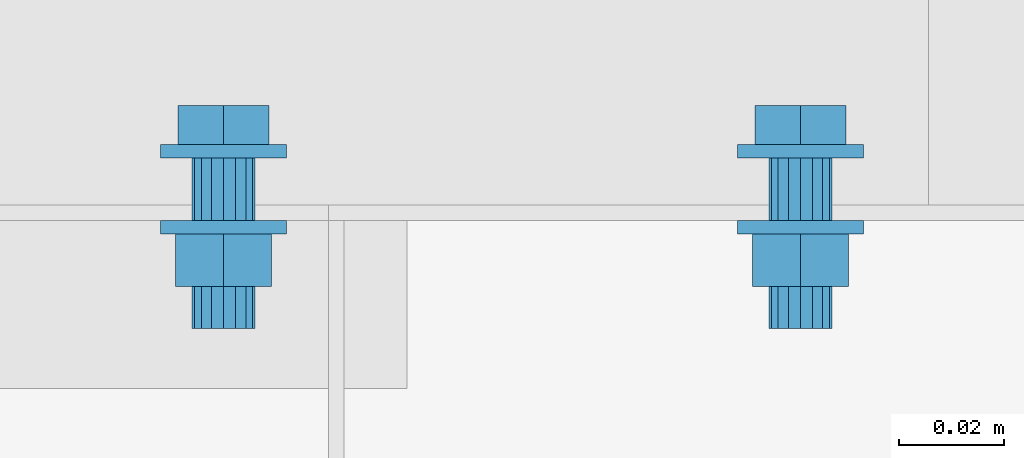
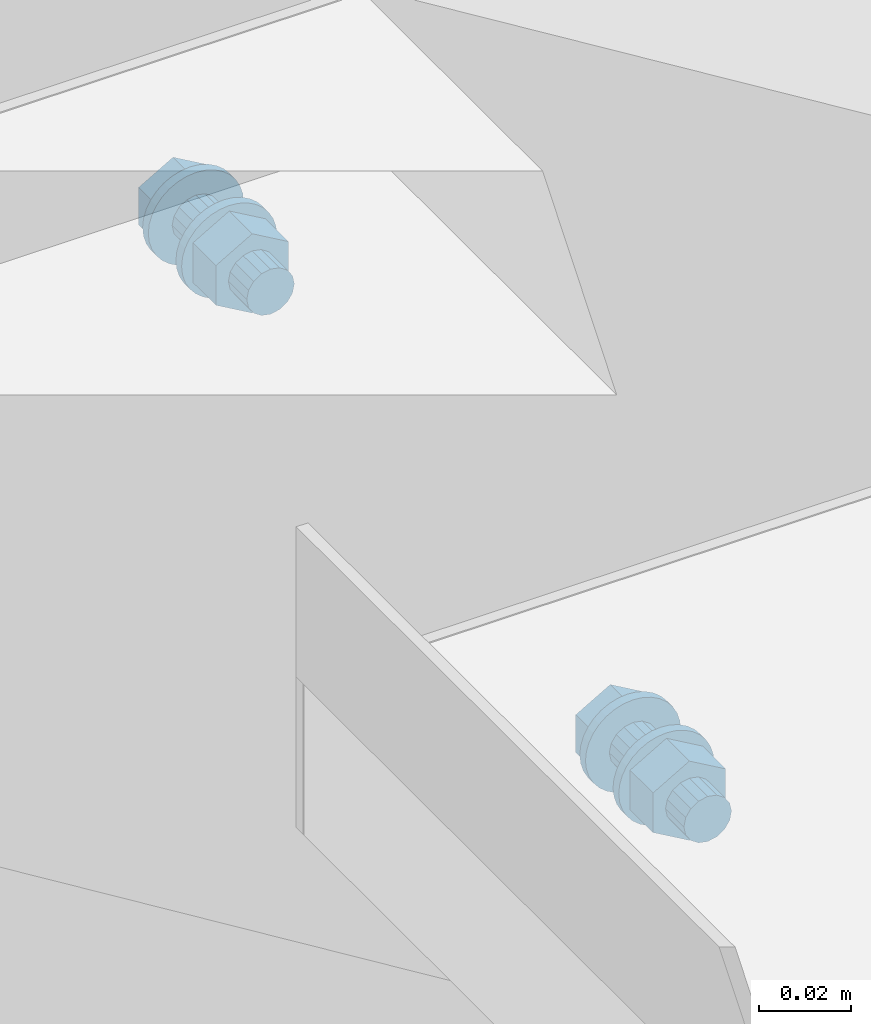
# One storey, part 256 of 410: 2 mechanical fasteners.
"""IFC2X3 building model written with IfcOpenShell, lengths in millimetres."""

from ifc_helpers import new_model, entity, si_unit, converted_unit, origin_with_axes, place, context, project, spatial, faceted_brep, element, save


model = new_model("IFC2X3")

# Units and contexts
model_context = context("Model", 3, precision=1e-09, world=origin_with_axes())
ifc_project = project(units=[si_unit("LENGTHUNIT", "METRE", prefix="MILLI"), si_unit("AREAUNIT", "SQUARE_METRE"), si_unit("VOLUMEUNIT", "CUBIC_METRE"), converted_unit("PLANEANGLEUNIT", "DEGREE", entity("IfcPlaneAngleMeasure", 0.01745329), si_unit("PLANEANGLEUNIT", "RADIAN"), dimensions=[0, 0, 0, 0, 0, 0, 0])], contexts=[model_context])

# Site, building, storey
site_placement = place(None, origin_with_axes())
site = spatial("IfcSite", under=ifc_project, at=site_placement, Name="mKR Teilneubau & Sanierung BA1 - Ostfildern", CompositionType="ELEMENT")
building_placement = place(site_placement, origin_with_axes())
building = spatial("IfcBuilding", under=site, at=building_placement, Name="Struktur 1", CompositionType="ELEMENT")
storey_placement = place(building_placement, origin_with_axes())
storey = spatial("IfcBuildingStorey", under=building, at=storey_placement, Name="Default Storey", CompositionType="ELEMENT", Elevation=0.0)

# Mechanical fasteners
mechanical_fastener_1_placement = place(None, origin_with_axes())
element("IfcMechanicalFastener", 1, at=mechanical_fastener_1_placement, inside=storey, ObjectType="Bolt", NominalDiameter=12.0, NominalLength=35.0, context=model_context, shape_type="Brep", body=[
    faceted_brep([(-1038.0, 18451.499999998, -591.4), (-1038.0, 18448.999999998, -591.4), (-1038.230576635, 18448.999999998, -593.741083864), (-1038.230576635, 18451.499999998, -593.741083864), (-1038.91344561, 18448.999999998, -595.992201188), (-1038.91344561, 18451.499999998, -595.992201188), (-1040.022364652, 18448.999999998, -598.066842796), (-1040.022364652, 18451.499999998, -598.066842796), (-1041.514718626, 18448.999999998, -599.885281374), (-1041.514718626, 18451.499999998, -599.885281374), (-1043.333157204, 18448.999999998, -601.377635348), (-1043.333157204, 18451.499999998, -601.377635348), (-1045.407798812, 18448.999999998, -602.48655439), (-1045.407798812, 18451.499999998, -602.48655439), (-1047.658916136, 18448.999999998, -603.169423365), (-1047.658916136, 18451.499999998, -603.169423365), (-1050.0, 18448.999999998, -603.4), (-1050.0, 18451.499999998, -603.4), (-1052.341083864, 18448.999999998, -603.169423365), (-1052.341083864, 18451.499999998, -603.169423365), (-1054.592201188, 18448.999999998, -602.48655439), (-1054.592201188, 18451.499999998, -602.48655439), (-1056.666842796, 18448.999999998, -601.377635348), (-1056.666842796, 18451.499999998, -601.377635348), (-1058.485281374, 18448.999999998, -599.885281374), (-1058.485281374, 18451.499999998, -599.885281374), (-1059.977635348, 18448.999999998, -598.066842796), (-1059.977635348, 18451.499999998, -598.066842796), (-1061.08655439, 18448.999999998, -595.992201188), (-1061.08655439, 18451.499999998, -595.992201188), (-1061.769423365, 18448.999999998, -593.741083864), (-1061.769423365, 18451.499999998, -593.741083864), (-1062.0, 18448.999999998, -591.4), (-1062.0, 18451.499999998, -591.4), (-1061.769423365, 18448.999999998, -589.058916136), (-1061.769423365, 18451.499999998, -589.058916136), (-1061.08655439, 18448.999999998, -586.807798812), (-1061.08655439, 18451.499999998, -586.807798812), (-1059.977635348, 18448.999999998, -584.733157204), (-1059.977635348, 18451.499999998, -584.733157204), (-1058.485281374, 18448.999999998, -582.914718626), (-1058.485281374, 18451.499999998, -582.914718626), (-1056.666842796, 18448.999999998, -581.422364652), (-1056.666842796, 18451.499999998, -581.422364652), (-1054.592201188, 18448.999999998, -580.31344561), (-1054.592201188, 18451.499999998, -580.31344561), (-1052.341083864, 18448.999999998, -579.630576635), (-1052.341083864, 18451.499999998, -579.630576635), (-1050.0, 18448.999999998, -579.4), (-1050.0, 18451.499999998, -579.4), (-1047.658916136, 18448.999999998, -579.630576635), (-1047.658916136, 18451.499999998, -579.630576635), (-1045.407798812, 18448.999999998, -580.31344561), (-1045.407798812, 18451.499999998, -580.31344561), (-1043.333157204, 18448.999999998, -581.422364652), (-1043.333157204, 18451.499999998, -581.422364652), (-1041.514718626, 18448.999999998, -582.914718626), (-1041.514718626, 18451.499999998, -582.914718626), (-1040.022364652, 18448.999999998, -584.733157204), (-1040.022364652, 18451.499999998, -584.733157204), (-1038.91344561, 18448.999999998, -586.807798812), (-1038.91344561, 18451.499999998, -586.807798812), (-1038.230576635, 18448.999999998, -589.058916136), (-1038.230576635, 18451.499999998, -589.058916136)], [[[0, 1, 2, 3]], [[3, 2, 4, 5]], [[5, 4, 6, 7]], [[7, 6, 8, 9]], [[9, 8, 10, 11]], [[11, 10, 12, 13]], [[13, 12, 14, 15]], [[15, 14, 16, 17]], [[17, 16, 18, 19]], [[19, 18, 20, 21]], [[21, 20, 22, 23]], [[23, 22, 24, 25]], [[25, 24, 26, 27]], [[27, 26, 28, 29]], [[29, 28, 30, 31]], [[31, 30, 32, 33]], [[33, 32, 34, 35]], [[35, 34, 36, 37]], [[37, 36, 38, 39]], [[39, 38, 40, 41]], [[41, 40, 42, 43]], [[43, 42, 44, 45]], [[45, 44, 46, 47]], [[47, 46, 48, 49]], [[49, 48, 50, 51]], [[51, 50, 52, 53]], [[53, 52, 54, 55]], [[55, 54, 56, 57]], [[57, 56, 58, 59]], [[59, 58, 60, 61]], [[61, 60, 62, 63]], [[63, 62, 1, 0]], [[0, 3, 5, 7, 9, 11, 13, 15, 17, 19, 21, 23, 25, 27, 29, 31, 33, 35, 37, 39, 41, 43, 45, 47, 49, 51, 53, 55, 57, 59, 61, 63]], [[1, 62, 60, 58, 56, 54, 52, 50, 48, 46, 44, 42, 40, 38, 36, 34, 32, 30, 28, 26, 24, 22, 20, 18, 16, 14, 12, 10, 8, 6, 4, 2]]]),
    faceted_brep([(-1058.673244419, 18451.499999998, -596.4075), (-1058.673244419, 18458.999999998, -596.4075), (-1050.0, 18458.999999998, -601.415), (-1050.0, 18451.499999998, -601.415), (-1041.326755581, 18458.999999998, -596.4075), (-1041.326755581, 18451.499999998, -596.4075), (-1041.326755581, 18458.999999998, -586.3925), (-1041.326755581, 18451.499999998, -586.3925), (-1050.0, 18458.999999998, -581.385), (-1050.0, 18451.499999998, -581.385), (-1058.673244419, 18458.999999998, -586.3925), (-1058.673244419, 18451.499999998, -586.3925)], [[[0, 1, 2, 3]], [[3, 2, 4, 5]], [[5, 4, 6, 7]], [[7, 6, 8, 9]], [[9, 8, 10, 11]], [[11, 10, 1, 0]], [[4, 2, 1, 10, 8, 6]], [[0, 3, 5, 7, 9, 11]]]),
    faceted_brep([(-1044.0, 18448.999999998, -591.4), (-1044.0, 18436.999999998, -591.4), (-1044.456722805, 18436.999999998, -593.696100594), (-1044.456722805, 18448.999999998, -593.696100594), (-1045.757359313, 18436.999999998, -595.642640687), (-1045.757359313, 18448.999999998, -595.642640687), (-1047.703899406, 18436.999999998, -596.943277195), (-1047.703899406, 18448.999999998, -596.943277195), (-1050.0, 18436.999999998, -597.4), (-1050.0, 18448.999999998, -597.4), (-1052.296100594, 18436.999999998, -596.943277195), (-1052.296100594, 18448.999999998, -596.943277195), (-1054.242640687, 18436.999999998, -595.642640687), (-1054.242640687, 18448.999999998, -595.642640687), (-1055.543277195, 18436.999999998, -593.696100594), (-1055.543277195, 18448.999999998, -593.696100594), (-1056.0, 18436.999999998, -591.4), (-1056.0, 18448.999999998, -591.4), (-1055.543277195, 18436.999999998, -589.103899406), (-1055.543277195, 18448.999999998, -589.103899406), (-1054.242640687, 18436.999999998, -587.157359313), (-1054.242640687, 18448.999999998, -587.157359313), (-1052.296100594, 18436.999999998, -585.856722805), (-1052.296100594, 18448.999999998, -585.856722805), (-1050.0, 18436.999999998, -585.4), (-1050.0, 18448.999999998, -585.4), (-1047.703899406, 18436.999999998, -585.856722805), (-1047.703899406, 18448.999999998, -585.856722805), (-1045.757359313, 18436.999999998, -587.157359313), (-1045.757359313, 18448.999999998, -587.157359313), (-1044.456722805, 18436.999999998, -589.103899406), (-1044.456722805, 18448.999999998, -589.103899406)], [[[0, 1, 2, 3]], [[3, 2, 4, 5]], [[5, 4, 6, 7]], [[7, 6, 8, 9]], [[9, 8, 10, 11]], [[11, 10, 12, 13]], [[13, 12, 14, 15]], [[15, 14, 16, 17]], [[17, 16, 18, 19]], [[19, 18, 20, 21]], [[21, 20, 22, 23]], [[23, 22, 24, 25]], [[25, 24, 26, 27]], [[27, 26, 28, 29]], [[29, 28, 30, 31]], [[31, 30, 1, 0]], [[0, 3, 5, 7, 9, 11, 13, 15, 17, 19, 21, 23, 25, 27, 29, 31]], [[1, 30, 28, 26, 24, 22, 20, 18, 16, 14, 12, 10, 8, 6, 4, 2]]]),
    faceted_brep([(-1038.0, 18436.999999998, -591.4), (-1038.0, 18434.499999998, -591.4), (-1038.230576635, 18434.499999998, -593.741083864), (-1038.230576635, 18436.999999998, -593.741083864), (-1038.91344561, 18434.499999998, -595.992201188), (-1038.91344561, 18436.999999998, -595.992201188), (-1040.022364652, 18434.499999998, -598.066842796), (-1040.022364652, 18436.999999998, -598.066842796), (-1041.514718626, 18434.499999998, -599.885281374), (-1041.514718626, 18436.999999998, -599.885281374), (-1043.333157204, 18434.499999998, -601.377635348), (-1043.333157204, 18436.999999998, -601.377635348), (-1045.407798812, 18434.499999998, -602.48655439), (-1045.407798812, 18436.999999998, -602.48655439), (-1047.658916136, 18434.499999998, -603.169423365), (-1047.658916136, 18436.999999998, -603.169423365), (-1050.0, 18434.499999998, -603.4), (-1050.0, 18436.999999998, -603.4), (-1052.341083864, 18434.499999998, -603.169423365), (-1052.341083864, 18436.999999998, -603.169423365), (-1054.592201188, 18434.499999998, -602.48655439), (-1054.592201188, 18436.999999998, -602.48655439), (-1056.666842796, 18434.499999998, -601.377635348), (-1056.666842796, 18436.999999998, -601.377635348), (-1058.485281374, 18434.499999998, -599.885281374), (-1058.485281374, 18436.999999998, -599.885281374), (-1059.977635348, 18434.499999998, -598.066842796), (-1059.977635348, 18436.999999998, -598.066842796), (-1061.08655439, 18434.499999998, -595.992201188), (-1061.08655439, 18436.999999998, -595.992201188), (-1061.769423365, 18434.499999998, -593.741083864), (-1061.769423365, 18436.999999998, -593.741083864), (-1062.0, 18434.499999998, -591.4), (-1062.0, 18436.999999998, -591.4), (-1061.769423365, 18434.499999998, -589.058916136), (-1061.769423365, 18436.999999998, -589.058916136), (-1061.08655439, 18434.499999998, -586.807798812), (-1061.08655439, 18436.999999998, -586.807798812), (-1059.977635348, 18434.499999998, -584.733157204), (-1059.977635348, 18436.999999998, -584.733157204), (-1058.485281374, 18434.499999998, -582.914718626), (-1058.485281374, 18436.999999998, -582.914718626), (-1056.666842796, 18434.499999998, -581.422364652), (-1056.666842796, 18436.999999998, -581.422364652), (-1054.592201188, 18434.499999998, -580.31344561), (-1054.592201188, 18436.999999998, -580.31344561), (-1052.341083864, 18434.499999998, -579.630576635), (-1052.341083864, 18436.999999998, -579.630576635), (-1050.0, 18434.499999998, -579.4), (-1050.0, 18436.999999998, -579.4), (-1047.658916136, 18434.499999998, -579.630576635), (-1047.658916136, 18436.999999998, -579.630576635), (-1045.407798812, 18434.499999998, -580.31344561), (-1045.407798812, 18436.999999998, -580.31344561), (-1043.333157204, 18434.499999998, -581.422364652), (-1043.333157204, 18436.999999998, -581.422364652), (-1041.514718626, 18434.499999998, -582.914718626), (-1041.514718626, 18436.999999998, -582.914718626), (-1040.022364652, 18434.499999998, -584.733157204), (-1040.022364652, 18436.999999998, -584.733157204), (-1038.91344561, 18434.499999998, -586.807798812), (-1038.91344561, 18436.999999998, -586.807798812), (-1038.230576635, 18434.499999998, -589.058916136), (-1038.230576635, 18436.999999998, -589.058916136)], [[[0, 1, 2, 3]], [[3, 2, 4, 5]], [[5, 4, 6, 7]], [[7, 6, 8, 9]], [[9, 8, 10, 11]], [[11, 10, 12, 13]], [[13, 12, 14, 15]], [[15, 14, 16, 17]], [[17, 16, 18, 19]], [[19, 18, 20, 21]], [[21, 20, 22, 23]], [[23, 22, 24, 25]], [[25, 24, 26, 27]], [[27, 26, 28, 29]], [[29, 28, 30, 31]], [[31, 30, 32, 33]], [[33, 32, 34, 35]], [[35, 34, 36, 37]], [[37, 36, 38, 39]], [[39, 38, 40, 41]], [[41, 40, 42, 43]], [[43, 42, 44, 45]], [[45, 44, 46, 47]], [[47, 46, 48, 49]], [[49, 48, 50, 51]], [[51, 50, 52, 53]], [[53, 52, 54, 55]], [[55, 54, 56, 57]], [[57, 56, 58, 59]], [[59, 58, 60, 61]], [[61, 60, 62, 63]], [[63, 62, 1, 0]], [[0, 3, 5, 7, 9, 11, 13, 15, 17, 19, 21, 23, 25, 27, 29, 31, 33, 35, 37, 39, 41, 43, 45, 47, 49, 51, 53, 55, 57, 59, 61, 63]], [[1, 62, 60, 58, 56, 54, 52, 50, 48, 46, 44, 42, 40, 38, 36, 34, 32, 30, 28, 26, 24, 22, 20, 18, 16, 14, 12, 10, 8, 6, 4, 2]]]),
    faceted_brep([(-1059.13656801, 18424.499999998, -596.675), (-1059.13656801, 18434.499999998, -596.675), (-1050.0, 18434.499999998, -601.95), (-1050.0, 18424.499999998, -601.95), (-1040.86343199, 18434.499999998, -596.675), (-1040.86343199, 18424.499999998, -596.675), (-1040.86343199, 18434.499999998, -586.125), (-1040.86343199, 18424.499999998, -586.125), (-1050.0, 18434.499999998, -580.85), (-1050.0, 18424.499999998, -580.85), (-1059.13656801, 18434.499999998, -586.125), (-1059.13656801, 18424.499999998, -586.125)], [[[0, 1, 2, 3]], [[3, 2, 4, 5]], [[5, 4, 6, 7]], [[7, 6, 8, 9]], [[9, 8, 10, 11]], [[11, 10, 1, 0]], [[4, 2, 1, 10, 8, 6]], [[0, 3, 5, 7, 9, 11]]]),
    faceted_brep([(-1044.0, 18424.499999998, -591.4), (-1044.0, 18416.499999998, -591.4), (-1044.456722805, 18416.499999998, -593.696100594), (-1044.456722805, 18424.499999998, -593.696100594), (-1045.757359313, 18416.499999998, -595.642640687), (-1045.757359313, 18424.499999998, -595.642640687), (-1047.703899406, 18416.499999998, -596.943277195), (-1047.703899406, 18424.499999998, -596.943277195), (-1050.0, 18416.499999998, -597.4), (-1050.0, 18424.499999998, -597.4), (-1052.296100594, 18416.499999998, -596.943277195), (-1052.296100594, 18424.499999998, -596.943277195), (-1054.242640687, 18416.499999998, -595.642640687), (-1054.242640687, 18424.499999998, -595.642640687), (-1055.543277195, 18416.499999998, -593.696100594), (-1055.543277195, 18424.499999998, -593.696100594), (-1056.0, 18416.499999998, -591.4), (-1056.0, 18424.499999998, -591.4), (-1055.543277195, 18416.499999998, -589.103899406), (-1055.543277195, 18424.499999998, -589.103899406), (-1054.242640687, 18416.499999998, -587.157359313), (-1054.242640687, 18424.499999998, -587.157359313), (-1052.296100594, 18416.499999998, -585.856722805), (-1052.296100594, 18424.499999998, -585.856722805), (-1050.0, 18416.499999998, -585.4), (-1050.0, 18424.499999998, -585.4), (-1047.703899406, 18416.499999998, -585.856722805), (-1047.703899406, 18424.499999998, -585.856722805), (-1045.757359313, 18416.499999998, -587.157359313), (-1045.757359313, 18424.499999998, -587.157359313), (-1044.456722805, 18416.499999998, -589.103899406), (-1044.456722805, 18424.499999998, -589.103899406)], [[[0, 1, 2, 3]], [[3, 2, 4, 5]], [[5, 4, 6, 7]], [[7, 6, 8, 9]], [[9, 8, 10, 11]], [[11, 10, 12, 13]], [[13, 12, 14, 15]], [[15, 14, 16, 17]], [[17, 16, 18, 19]], [[19, 18, 20, 21]], [[21, 20, 22, 23]], [[23, 22, 24, 25]], [[25, 24, 26, 27]], [[27, 26, 28, 29]], [[29, 28, 30, 31]], [[31, 30, 1, 0]], [[0, 3, 5, 7, 9, 11, 13, 15, 17, 19, 21, 23, 25, 27, 29, 31]], [[1, 30, 28, 26, 24, 22, 20, 18, 16, 14, 12, 10, 8, 6, 4, 2]]]),
])
mechanical_fastener_2_placement = place(None, origin_with_axes())
element("IfcMechanicalFastener", 2, at=mechanical_fastener_2_placement, inside=storey, ObjectType="Bolt", NominalDiameter=12.0, NominalLength=35.0, context=model_context, shape_type="Brep", body=[
    faceted_brep([(-1148.0, 18451.499999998, -412.6), (-1148.0, 18448.999999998, -412.6), (-1148.230576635, 18448.999999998, -414.941083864), (-1148.230576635, 18451.499999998, -414.941083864), (-1148.91344561, 18448.999999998, -417.192201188), (-1148.91344561, 18451.499999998, -417.192201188), (-1150.022364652, 18448.999999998, -419.266842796), (-1150.022364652, 18451.499999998, -419.266842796), (-1151.514718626, 18448.999999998, -421.085281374), (-1151.514718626, 18451.499999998, -421.085281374), (-1153.333157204, 18448.999999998, -422.577635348), (-1153.333157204, 18451.499999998, -422.577635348), (-1155.407798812, 18448.999999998, -423.68655439), (-1155.407798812, 18451.499999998, -423.68655439), (-1157.658916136, 18448.999999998, -424.369423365), (-1157.658916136, 18451.499999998, -424.369423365), (-1160.0, 18448.999999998, -424.6), (-1160.0, 18451.499999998, -424.6), (-1162.341083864, 18448.999999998, -424.369423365), (-1162.341083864, 18451.499999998, -424.369423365), (-1164.592201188, 18448.999999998, -423.68655439), (-1164.592201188, 18451.499999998, -423.68655439), (-1166.666842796, 18448.999999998, -422.577635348), (-1166.666842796, 18451.499999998, -422.577635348), (-1168.485281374, 18448.999999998, -421.085281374), (-1168.485281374, 18451.499999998, -421.085281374), (-1169.977635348, 18448.999999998, -419.266842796), (-1169.977635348, 18451.499999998, -419.266842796), (-1171.08655439, 18448.999999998, -417.192201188), (-1171.08655439, 18451.499999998, -417.192201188), (-1171.769423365, 18448.999999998, -414.941083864), (-1171.769423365, 18451.499999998, -414.941083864), (-1172.0, 18448.999999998, -412.6), (-1172.0, 18451.499999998, -412.6), (-1171.769423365, 18448.999999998, -410.258916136), (-1171.769423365, 18451.499999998, -410.258916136), (-1171.08655439, 18448.999999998, -408.007798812), (-1171.08655439, 18451.499999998, -408.007798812), (-1169.977635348, 18448.999999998, -405.933157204), (-1169.977635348, 18451.499999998, -405.933157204), (-1168.485281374, 18448.999999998, -404.114718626), (-1168.485281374, 18451.499999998, -404.114718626), (-1166.666842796, 18448.999999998, -402.622364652), (-1166.666842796, 18451.499999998, -402.622364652), (-1164.592201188, 18448.999999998, -401.51344561), (-1164.592201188, 18451.499999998, -401.51344561), (-1162.341083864, 18448.999999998, -400.830576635), (-1162.341083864, 18451.499999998, -400.830576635), (-1160.0, 18448.999999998, -400.6), (-1160.0, 18451.499999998, -400.6), (-1157.658916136, 18448.999999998, -400.830576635), (-1157.658916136, 18451.499999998, -400.830576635), (-1155.407798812, 18448.999999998, -401.51344561), (-1155.407798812, 18451.499999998, -401.51344561), (-1153.333157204, 18448.999999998, -402.622364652), (-1153.333157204, 18451.499999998, -402.622364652), (-1151.514718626, 18448.999999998, -404.114718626), (-1151.514718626, 18451.499999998, -404.114718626), (-1150.022364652, 18448.999999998, -405.933157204), (-1150.022364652, 18451.499999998, -405.933157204), (-1148.91344561, 18448.999999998, -408.007798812), (-1148.91344561, 18451.499999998, -408.007798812), (-1148.230576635, 18448.999999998, -410.258916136), (-1148.230576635, 18451.499999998, -410.258916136)], [[[0, 1, 2, 3]], [[3, 2, 4, 5]], [[5, 4, 6, 7]], [[7, 6, 8, 9]], [[9, 8, 10, 11]], [[11, 10, 12, 13]], [[13, 12, 14, 15]], [[15, 14, 16, 17]], [[17, 16, 18, 19]], [[19, 18, 20, 21]], [[21, 20, 22, 23]], [[23, 22, 24, 25]], [[25, 24, 26, 27]], [[27, 26, 28, 29]], [[29, 28, 30, 31]], [[31, 30, 32, 33]], [[33, 32, 34, 35]], [[35, 34, 36, 37]], [[37, 36, 38, 39]], [[39, 38, 40, 41]], [[41, 40, 42, 43]], [[43, 42, 44, 45]], [[45, 44, 46, 47]], [[47, 46, 48, 49]], [[49, 48, 50, 51]], [[51, 50, 52, 53]], [[53, 52, 54, 55]], [[55, 54, 56, 57]], [[57, 56, 58, 59]], [[59, 58, 60, 61]], [[61, 60, 62, 63]], [[63, 62, 1, 0]], [[0, 3, 5, 7, 9, 11, 13, 15, 17, 19, 21, 23, 25, 27, 29, 31, 33, 35, 37, 39, 41, 43, 45, 47, 49, 51, 53, 55, 57, 59, 61, 63]], [[1, 62, 60, 58, 56, 54, 52, 50, 48, 46, 44, 42, 40, 38, 36, 34, 32, 30, 28, 26, 24, 22, 20, 18, 16, 14, 12, 10, 8, 6, 4, 2]]]),
    faceted_brep([(-1168.673244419, 18451.499999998, -417.6075), (-1168.673244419, 18458.999999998, -417.6075), (-1160.0, 18458.999999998, -422.615), (-1160.0, 18451.499999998, -422.615), (-1151.326755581, 18458.999999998, -417.6075), (-1151.326755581, 18451.499999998, -417.6075), (-1151.326755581, 18458.999999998, -407.5925), (-1151.326755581, 18451.499999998, -407.5925), (-1160.0, 18458.999999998, -402.585), (-1160.0, 18451.499999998, -402.585), (-1168.673244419, 18458.999999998, -407.5925), (-1168.673244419, 18451.499999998, -407.5925)], [[[0, 1, 2, 3]], [[3, 2, 4, 5]], [[5, 4, 6, 7]], [[7, 6, 8, 9]], [[9, 8, 10, 11]], [[11, 10, 1, 0]], [[4, 2, 1, 10, 8, 6]], [[0, 3, 5, 7, 9, 11]]]),
    faceted_brep([(-1154.0, 18448.999999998, -412.6), (-1154.0, 18436.999999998, -412.6), (-1154.456722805, 18436.999999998, -414.896100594), (-1154.456722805, 18448.999999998, -414.896100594), (-1155.757359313, 18436.999999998, -416.842640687), (-1155.757359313, 18448.999999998, -416.842640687), (-1157.703899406, 18436.999999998, -418.143277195), (-1157.703899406, 18448.999999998, -418.143277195), (-1160.0, 18436.999999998, -418.6), (-1160.0, 18448.999999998, -418.6), (-1162.296100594, 18436.999999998, -418.143277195), (-1162.296100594, 18448.999999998, -418.143277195), (-1164.242640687, 18436.999999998, -416.842640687), (-1164.242640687, 18448.999999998, -416.842640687), (-1165.543277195, 18436.999999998, -414.896100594), (-1165.543277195, 18448.999999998, -414.896100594), (-1166.0, 18436.999999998, -412.6), (-1166.0, 18448.999999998, -412.6), (-1165.543277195, 18436.999999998, -410.303899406), (-1165.543277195, 18448.999999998, -410.303899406), (-1164.242640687, 18436.999999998, -408.357359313), (-1164.242640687, 18448.999999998, -408.357359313), (-1162.296100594, 18436.999999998, -407.056722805), (-1162.296100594, 18448.999999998, -407.056722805), (-1160.0, 18436.999999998, -406.6), (-1160.0, 18448.999999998, -406.6), (-1157.703899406, 18436.999999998, -407.056722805), (-1157.703899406, 18448.999999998, -407.056722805), (-1155.757359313, 18436.999999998, -408.357359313), (-1155.757359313, 18448.999999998, -408.357359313), (-1154.456722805, 18436.999999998, -410.303899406), (-1154.456722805, 18448.999999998, -410.303899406)], [[[0, 1, 2, 3]], [[3, 2, 4, 5]], [[5, 4, 6, 7]], [[7, 6, 8, 9]], [[9, 8, 10, 11]], [[11, 10, 12, 13]], [[13, 12, 14, 15]], [[15, 14, 16, 17]], [[17, 16, 18, 19]], [[19, 18, 20, 21]], [[21, 20, 22, 23]], [[23, 22, 24, 25]], [[25, 24, 26, 27]], [[27, 26, 28, 29]], [[29, 28, 30, 31]], [[31, 30, 1, 0]], [[0, 3, 5, 7, 9, 11, 13, 15, 17, 19, 21, 23, 25, 27, 29, 31]], [[1, 30, 28, 26, 24, 22, 20, 18, 16, 14, 12, 10, 8, 6, 4, 2]]]),
    faceted_brep([(-1148.0, 18436.999999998, -412.6), (-1148.0, 18434.499999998, -412.6), (-1148.230576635, 18434.499999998, -414.941083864), (-1148.230576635, 18436.999999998, -414.941083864), (-1148.91344561, 18434.499999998, -417.192201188), (-1148.91344561, 18436.999999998, -417.192201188), (-1150.022364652, 18434.499999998, -419.266842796), (-1150.022364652, 18436.999999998, -419.266842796), (-1151.514718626, 18434.499999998, -421.085281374), (-1151.514718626, 18436.999999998, -421.085281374), (-1153.333157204, 18434.499999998, -422.577635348), (-1153.333157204, 18436.999999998, -422.577635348), (-1155.407798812, 18434.499999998, -423.68655439), (-1155.407798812, 18436.999999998, -423.68655439), (-1157.658916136, 18434.499999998, -424.369423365), (-1157.658916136, 18436.999999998, -424.369423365), (-1160.0, 18434.499999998, -424.6), (-1160.0, 18436.999999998, -424.6), (-1162.341083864, 18434.499999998, -424.369423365), (-1162.341083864, 18436.999999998, -424.369423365), (-1164.592201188, 18434.499999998, -423.68655439), (-1164.592201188, 18436.999999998, -423.68655439), (-1166.666842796, 18434.499999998, -422.577635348), (-1166.666842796, 18436.999999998, -422.577635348), (-1168.485281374, 18434.499999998, -421.085281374), (-1168.485281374, 18436.999999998, -421.085281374), (-1169.977635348, 18434.499999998, -419.266842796), (-1169.977635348, 18436.999999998, -419.266842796), (-1171.08655439, 18434.499999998, -417.192201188), (-1171.08655439, 18436.999999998, -417.192201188), (-1171.769423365, 18434.499999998, -414.941083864), (-1171.769423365, 18436.999999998, -414.941083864), (-1172.0, 18434.499999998, -412.6), (-1172.0, 18436.999999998, -412.6), (-1171.769423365, 18434.499999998, -410.258916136), (-1171.769423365, 18436.999999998, -410.258916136), (-1171.08655439, 18434.499999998, -408.007798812), (-1171.08655439, 18436.999999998, -408.007798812), (-1169.977635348, 18434.499999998, -405.933157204), (-1169.977635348, 18436.999999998, -405.933157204), (-1168.485281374, 18434.499999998, -404.114718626), (-1168.485281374, 18436.999999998, -404.114718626), (-1166.666842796, 18434.499999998, -402.622364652), (-1166.666842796, 18436.999999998, -402.622364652), (-1164.592201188, 18434.499999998, -401.51344561), (-1164.592201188, 18436.999999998, -401.51344561), (-1162.341083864, 18434.499999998, -400.830576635), (-1162.341083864, 18436.999999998, -400.830576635), (-1160.0, 18434.499999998, -400.6), (-1160.0, 18436.999999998, -400.6), (-1157.658916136, 18434.499999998, -400.830576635), (-1157.658916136, 18436.999999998, -400.830576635), (-1155.407798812, 18434.499999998, -401.51344561), (-1155.407798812, 18436.999999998, -401.51344561), (-1153.333157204, 18434.499999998, -402.622364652), (-1153.333157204, 18436.999999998, -402.622364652), (-1151.514718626, 18434.499999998, -404.114718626), (-1151.514718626, 18436.999999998, -404.114718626), (-1150.022364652, 18434.499999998, -405.933157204), (-1150.022364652, 18436.999999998, -405.933157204), (-1148.91344561, 18434.499999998, -408.007798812), (-1148.91344561, 18436.999999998, -408.007798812), (-1148.230576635, 18434.499999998, -410.258916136), (-1148.230576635, 18436.999999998, -410.258916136)], [[[0, 1, 2, 3]], [[3, 2, 4, 5]], [[5, 4, 6, 7]], [[7, 6, 8, 9]], [[9, 8, 10, 11]], [[11, 10, 12, 13]], [[13, 12, 14, 15]], [[15, 14, 16, 17]], [[17, 16, 18, 19]], [[19, 18, 20, 21]], [[21, 20, 22, 23]], [[23, 22, 24, 25]], [[25, 24, 26, 27]], [[27, 26, 28, 29]], [[29, 28, 30, 31]], [[31, 30, 32, 33]], [[33, 32, 34, 35]], [[35, 34, 36, 37]], [[37, 36, 38, 39]], [[39, 38, 40, 41]], [[41, 40, 42, 43]], [[43, 42, 44, 45]], [[45, 44, 46, 47]], [[47, 46, 48, 49]], [[49, 48, 50, 51]], [[51, 50, 52, 53]], [[53, 52, 54, 55]], [[55, 54, 56, 57]], [[57, 56, 58, 59]], [[59, 58, 60, 61]], [[61, 60, 62, 63]], [[63, 62, 1, 0]], [[0, 3, 5, 7, 9, 11, 13, 15, 17, 19, 21, 23, 25, 27, 29, 31, 33, 35, 37, 39, 41, 43, 45, 47, 49, 51, 53, 55, 57, 59, 61, 63]], [[1, 62, 60, 58, 56, 54, 52, 50, 48, 46, 44, 42, 40, 38, 36, 34, 32, 30, 28, 26, 24, 22, 20, 18, 16, 14, 12, 10, 8, 6, 4, 2]]]),
    faceted_brep([(-1169.13656801, 18424.499999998, -417.875), (-1169.13656801, 18434.499999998, -417.875), (-1160.0, 18434.499999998, -423.15), (-1160.0, 18424.499999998, -423.15), (-1150.86343199, 18434.499999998, -417.875), (-1150.86343199, 18424.499999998, -417.875), (-1150.86343199, 18434.499999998, -407.325), (-1150.86343199, 18424.499999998, -407.325), (-1160.0, 18434.499999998, -402.05), (-1160.0, 18424.499999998, -402.05), (-1169.13656801, 18434.499999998, -407.325), (-1169.13656801, 18424.499999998, -407.325)], [[[0, 1, 2, 3]], [[3, 2, 4, 5]], [[5, 4, 6, 7]], [[7, 6, 8, 9]], [[9, 8, 10, 11]], [[11, 10, 1, 0]], [[4, 2, 1, 10, 8, 6]], [[0, 3, 5, 7, 9, 11]]]),
    faceted_brep([(-1154.0, 18424.499999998, -412.6), (-1154.0, 18416.499999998, -412.6), (-1154.456722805, 18416.499999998, -414.896100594), (-1154.456722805, 18424.499999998, -414.896100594), (-1155.757359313, 18416.499999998, -416.842640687), (-1155.757359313, 18424.499999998, -416.842640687), (-1157.703899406, 18416.499999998, -418.143277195), (-1157.703899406, 18424.499999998, -418.143277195), (-1160.0, 18416.499999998, -418.6), (-1160.0, 18424.499999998, -418.6), (-1162.296100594, 18416.499999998, -418.143277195), (-1162.296100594, 18424.499999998, -418.143277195), (-1164.242640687, 18416.499999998, -416.842640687), (-1164.242640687, 18424.499999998, -416.842640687), (-1165.543277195, 18416.499999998, -414.896100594), (-1165.543277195, 18424.499999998, -414.896100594), (-1166.0, 18416.499999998, -412.6), (-1166.0, 18424.499999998, -412.6), (-1165.543277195, 18416.499999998, -410.303899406), (-1165.543277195, 18424.499999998, -410.303899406), (-1164.242640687, 18416.499999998, -408.357359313), (-1164.242640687, 18424.499999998, -408.357359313), (-1162.296100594, 18416.499999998, -407.056722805), (-1162.296100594, 18424.499999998, -407.056722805), (-1160.0, 18416.499999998, -406.6), (-1160.0, 18424.499999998, -406.6), (-1157.703899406, 18416.499999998, -407.056722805), (-1157.703899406, 18424.499999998, -407.056722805), (-1155.757359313, 18416.499999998, -408.357359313), (-1155.757359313, 18424.499999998, -408.357359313), (-1154.456722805, 18416.499999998, -410.303899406), (-1154.456722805, 18424.499999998, -410.303899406)], [[[0, 1, 2, 3]], [[3, 2, 4, 5]], [[5, 4, 6, 7]], [[7, 6, 8, 9]], [[9, 8, 10, 11]], [[11, 10, 12, 13]], [[13, 12, 14, 15]], [[15, 14, 16, 17]], [[17, 16, 18, 19]], [[19, 18, 20, 21]], [[21, 20, 22, 23]], [[23, 22, 24, 25]], [[25, 24, 26, 27]], [[27, 26, 28, 29]], [[29, 28, 30, 31]], [[31, 30, 1, 0]], [[0, 3, 5, 7, 9, 11, 13, 15, 17, 19, 21, 23, 25, 27, 29, 31]], [[1, 30, 28, 26, 24, 22, 20, 18, 16, 14, 12, 10, 8, 6, 4, 2]]]),
])

save(model, "model.ifc")
